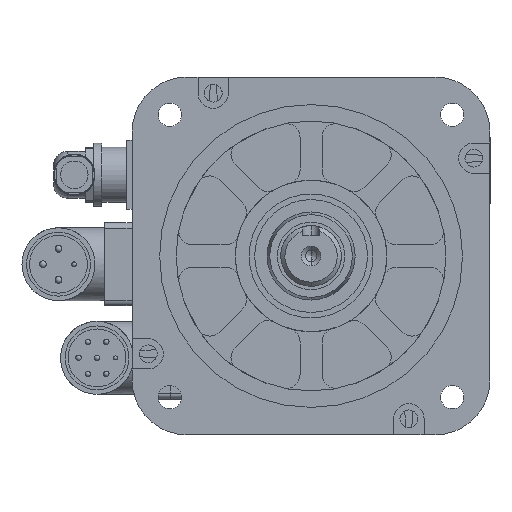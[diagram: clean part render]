
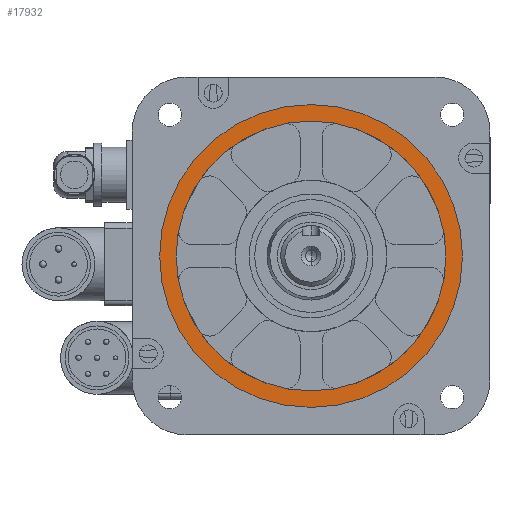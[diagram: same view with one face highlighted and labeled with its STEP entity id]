
A CAD part, left-side view. The second image highlights one B-rep face of the part: STEP entity #17932.
In plain terms, the highlighted planar face has unit normal (-1, 0, 0).
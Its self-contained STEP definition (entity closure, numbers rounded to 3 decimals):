
#759 = CIRCLE ( 'NONE', #11429, 55. ) ;
#2707 = EDGE_CURVE ( 'NONE', #20041, #11483, #7648, .T. ) ;
#4623 = DIRECTION ( 'NONE',  ( -1., 0., 0. ) ) ;
#6443 = DIRECTION ( 'NONE',  ( -1., 0., 0. ) ) ;
#7290 = CARTESIAN_POINT ( 'NONE',  ( -6., 0., 0. ) ) ;
#7648 = CIRCLE ( 'NONE', #27594, 49. ) ;
#7927 = VERTEX_POINT ( 'NONE', #13336 ) ;
#8266 = ORIENTED_EDGE ( 'NONE', *, *, #2707, .F. ) ;
#8410 = CARTESIAN_POINT ( 'NONE',  ( -6., 0., -49. ) ) ;
#9174 = AXIS2_PLACEMENT_3D ( 'NONE', #19892, #6443, #30132 ) ;
#9799 = FACE_OUTER_BOUND ( 'NONE', #31930, .T. ) ;
#10697 = DIRECTION ( 'NONE',  ( 0., 0., 1. ) ) ;
#11429 = AXIS2_PLACEMENT_3D ( 'NONE', #33649, #13410, #37014 ) ;
#11483 = VERTEX_POINT ( 'NONE', #8410 ) ;
#12152 = DIRECTION ( 'NONE',  ( -1., 0., 0. ) ) ;
#13336 = CARTESIAN_POINT ( 'NONE',  ( -6., 0., 55. ) ) ;
#13410 = DIRECTION ( 'NONE',  ( -1., 0., 0. ) ) ;
#13653 = ORIENTED_EDGE ( 'NONE', *, *, #39060, .T. ) ;
#15109 = EDGE_LOOP ( 'NONE', ( #8266, #38334 ) ) ;
#17932 = ADVANCED_FACE ( 'NONE', ( #20917, #9799 ), #26693, .T. ) ;
#17953 = EDGE_CURVE ( 'NONE', #20639, #7927, #759, .T. ) ;
#19718 = CARTESIAN_POINT ( 'NONE',  ( -6., 0., 49. ) ) ;
#19892 = CARTESIAN_POINT ( 'NONE',  ( -6., 0., 0. ) ) ;
#20041 = VERTEX_POINT ( 'NONE', #19718 ) ;
#20639 = VERTEX_POINT ( 'NONE', #40622 ) ;
#20917 = FACE_BOUND ( 'NONE', #15109, .T. ) ;
#21133 = EDGE_CURVE ( 'NONE', #11483, #20041, #42681, .T. ) ;
#24912 = CARTESIAN_POINT ( 'NONE',  ( -6., 0., 0. ) ) ;
#25094 = CIRCLE ( 'NONE', #25159, 55. ) ;
#25159 = AXIS2_PLACEMENT_3D ( 'NONE', #32404, #12152, #35778 ) ;
#26693 = PLANE ( 'NONE',  #9174 ) ;
#27594 = AXIS2_PLACEMENT_3D ( 'NONE', #7290, #30968, #10697 ) ;
#28278 = DIRECTION ( 'NONE',  ( 0., 0., 1. ) ) ;
#30132 = DIRECTION ( 'NONE',  ( 0., 0., 1. ) ) ;
#30968 = DIRECTION ( 'NONE',  ( -1., 0., 0. ) ) ;
#31930 = EDGE_LOOP ( 'NONE', ( #35314, #13653 ) ) ;
#32404 = CARTESIAN_POINT ( 'NONE',  ( -6., 0., 0. ) ) ;
#33649 = CARTESIAN_POINT ( 'NONE',  ( -6., 0., 0. ) ) ;
#35314 = ORIENTED_EDGE ( 'NONE', *, *, #17953, .T. ) ;
#35778 = DIRECTION ( 'NONE',  ( 0., 0., 1. ) ) ;
#37014 = DIRECTION ( 'NONE',  ( 0., 0., 1. ) ) ;
#38334 = ORIENTED_EDGE ( 'NONE', *, *, #21133, .F. ) ;
#39060 = EDGE_CURVE ( 'NONE', #7927, #20639, #25094, .T. ) ;
#40622 = CARTESIAN_POINT ( 'NONE',  ( -6., 0., -55. ) ) ;
#40651 = AXIS2_PLACEMENT_3D ( 'NONE', #24912, #4623, #28278 ) ;
#42681 = CIRCLE ( 'NONE', #40651, 49. ) ;
